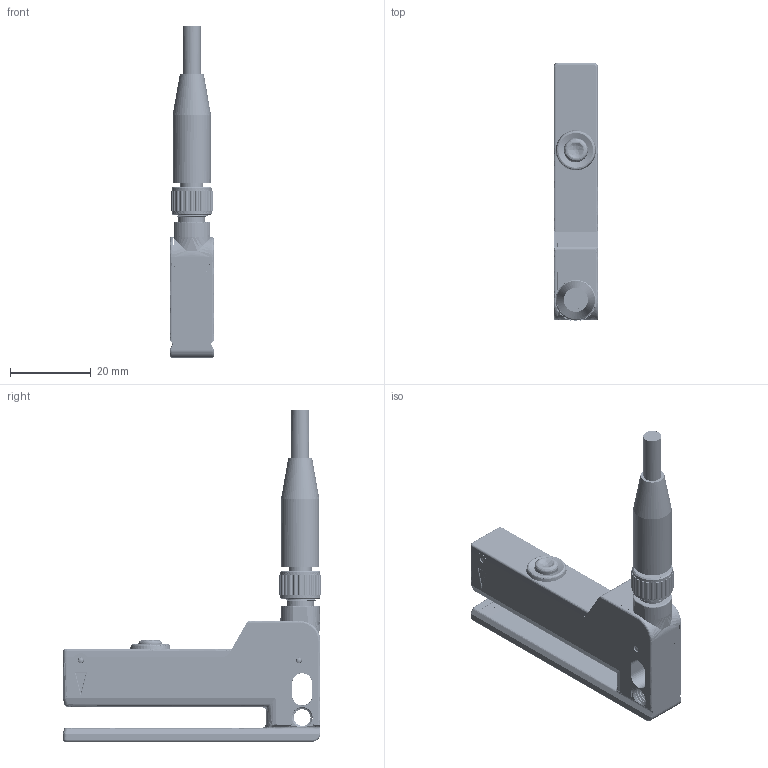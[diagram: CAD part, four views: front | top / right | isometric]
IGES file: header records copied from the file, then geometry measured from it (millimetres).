
Global section: file name: D:\CS\IDF\DSD-0528_SR23_M8.igs; native system: NX V7.5; preprocessor: SIEMENS PLM Software NX 7.5; date: 20140318.083751; units: millimetre
Bounding box: 11.1 x 64.25 x 82.48 mm (x, y, z)
Surface area: 31648 mm2 (no closed solid volume)
Topology: 0 solids, 0 shells, 3226 faces, 30143 edges, 29941 vertices
Faces by surface type: bspline 3226
